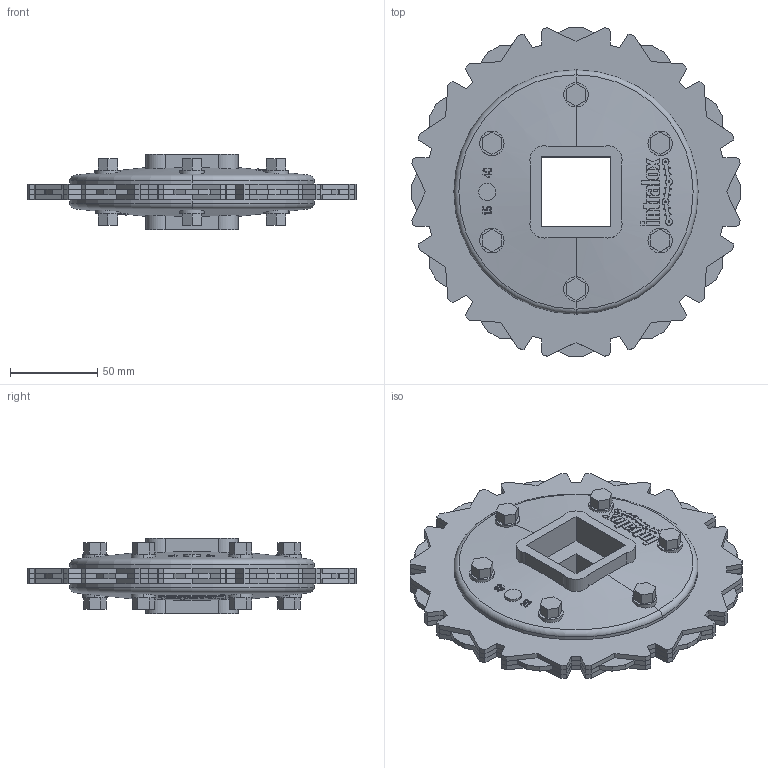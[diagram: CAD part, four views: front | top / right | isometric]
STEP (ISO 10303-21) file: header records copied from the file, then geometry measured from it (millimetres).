
FILE_DESCRIPTION((''),'2;1');
FILE_NAME('S800_SPL_METAL_AR_77X15_40_SQ_ASM','2008-12-12T',('jmumphre'),(''),'PRO/ENGINEER BY PARAMETRIC TECHNOLOGY CORPORATION, 2008150','PRO/ENGINEER BY PARAMETRIC TECHNOLOGY CORPORATION, 2008150','');
FILE_SCHEMA(('CONFIG_CONTROL_DESIGN'));
Length unit declared in the file: inch
Products named in the file (7): S800_TP_METAL_77X254_SQ_AF0; S800_TP_NONTRACK_77X254_SQ_AF0; S800_TP_NONTRACK_77X254_SQ_AF1; JOINING_PLATE_6X15_40_SQ_AF2; JOINING_PLATE_6X15_40_SQ_AF3; BOLTS_N_NUTS_4-376X0-990_AF2; S800_SPL_METAL_AR_77X15_40_SQ_ASM
Assembly tree (6 placements, depth 2):
  S800_SPL_METAL_AR_77X15_40_SQ_ASM
    S800_TP_METAL_77X254_SQ_AF0
    S800_TP_NONTRACK_77X254_SQ_AF0
    S800_TP_NONTRACK_77X254_SQ_AF1
    JOINING_PLATE_6X15_40_SQ_AF2
    JOINING_PLATE_6X15_40_SQ_AF3
    BOLTS_N_NUTS_4-376X0-990_AF2
Bounding box: 188.64 x 188.64 x 43.18 mm (x, y, z)
Volume: 415281.3 mm3; surface area: 219240.5 mm2
Topology: 11 solids, 11 shells, 1226 faces, 3400 edges, 2264 vertices
Faces by surface type: plane 884, cylinder 288, cone 50, torus 4
Entity records: 42634 total; most frequent: CARTESIAN_POINT 13315, ORIENTED_EDGE 6800, DIRECTION 4770, EDGE_CURVE 3400, VERTEX_POINT 2264, VECTOR 1900, LINE 1900, AXIS2_PLACEMENT_3D 1435
